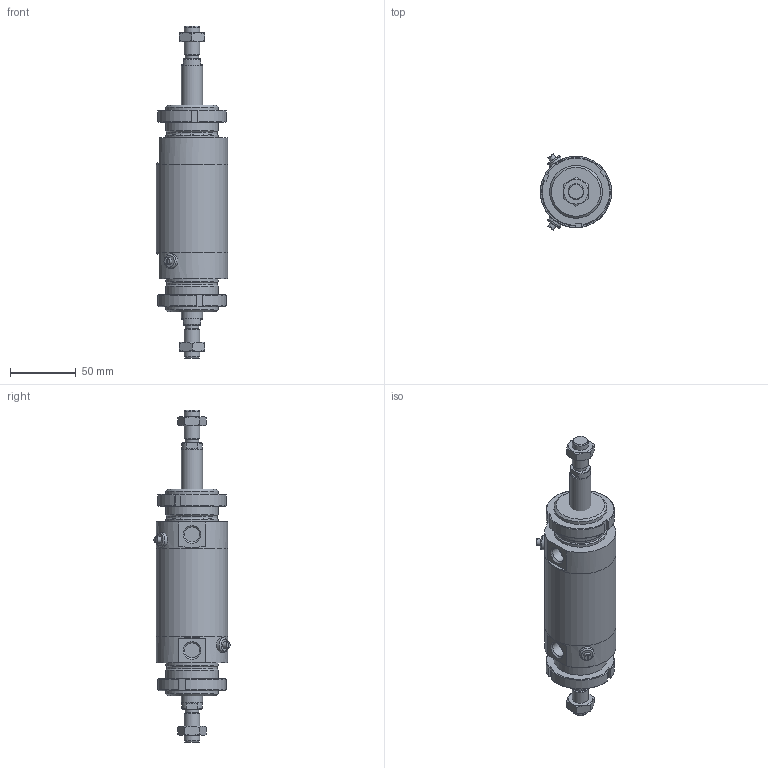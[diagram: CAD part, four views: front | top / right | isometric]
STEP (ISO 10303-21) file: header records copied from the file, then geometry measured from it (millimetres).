
FILE_DESCRIPTION(/* description */ (''),/* implementation_level */ '2;1');
FILE_NAME(/* name */ 'I:\Area Tecnica\Documenti\A-Manieri\_Inventor\12X\12X#S_###_####_#_#\12XDS_050_0025_#_#.stp',/* time_stamp */ '2015-05-13T08:20:15+02:00',/* author */ ('maniean1'),/* organization */ ('Pneumax S.p.A.'),/* preprocessor_version */ 'ST-DEVELOPER v15.2',/* originating_system */ 'Autodesk Inventor 2014',/* authorisation */ '');
FILE_SCHEMA (('AUTOMOTIVE_DESIGN { 1 0 10303 214 3 1 1 }'));
Length unit declared in the file: millimetre
Products named in the file (6): C1250_619-0025; 12X50_606; SP12X50_0025; 12X_50_11; G12X_050_05; 12XDS_050_0025_#_#
Bounding box: 54 x 57.75 x 252 mm (x, y, z)
Volume: 297273.2 mm3; surface area: 80041 mm2
Topology: 8 solids, 8 shells, 151 faces, 346 edges, 223 vertices
Faces by surface type: plane 78, cylinder 37, cone 34, torus 2
Full cylindrical faces by diameter (mm): 5 x2, 10.2 x2, 11 x2, 11.4 x2, 12 x4, 14 x2, 15.6 x2, 16 x2, 38.2 x2, 40 x6, 50 x2, 54 x3
Entity records: 2556 total; most frequent: CARTESIAN_POINT 505, DIRECTION 428, ORIENTED_EDGE 342, AXIS2_PLACEMENT_3D 182, EDGE_CURVE 171, EDGE_LOOP 144, VERTEX_POINT 129, ADVANCED_FACE 94
